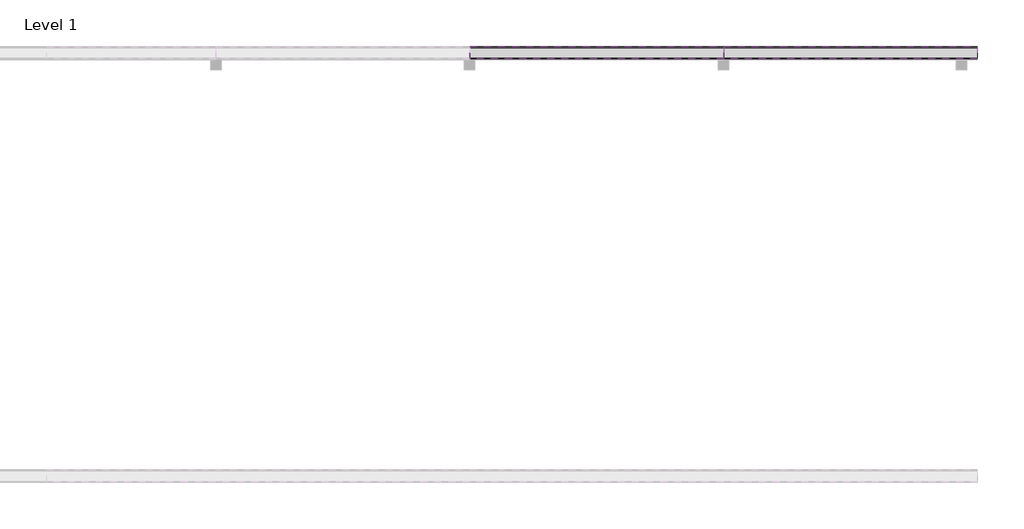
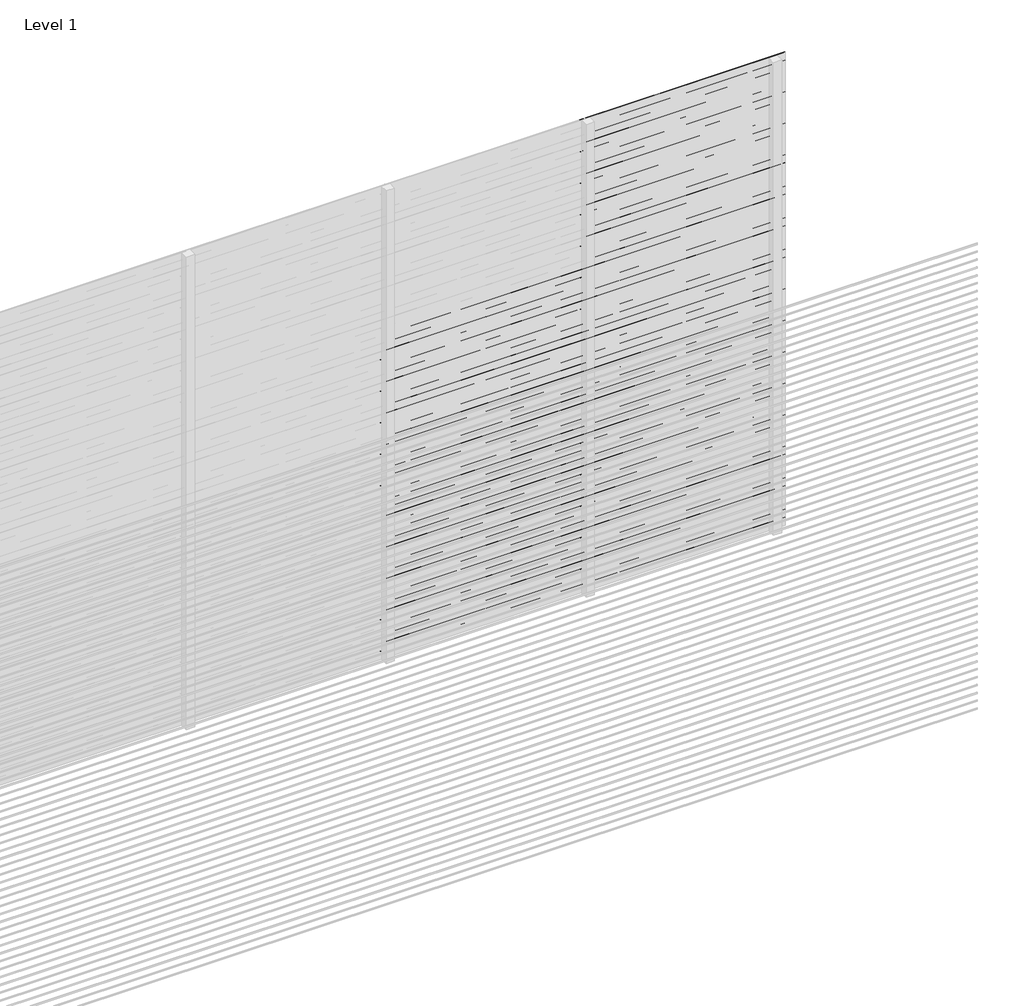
# One storey, part 16 of 16: 101 proxies.
"""IFC4 building model written with IfcOpenShell, lengths in millimetres."""

from ifc_helpers import new_model, si_unit, frame, origin, place, context, project, spatial, polyline, outline, extrude, element, save

model = new_model("IFC4")

# Units and contexts
model_context = context("Model", 3, world=origin())
ifc_project = project(units=[si_unit("LENGTHUNIT", "METRE", prefix="MILLI")], contexts=[model_context])

# Site, building, storey
site = spatial("IfcSite", under=ifc_project)
building = spatial("IfcBuilding", under=site)
storey = spatial("IfcBuildingStorey", under=building, Name="Level 1", Elevation=0.0)

# Proxies
placement = place(None, origin())
element("IfcBuildingElementProxy", 1, Name="Wall Sweeps", at=placement, inside=storey, context=model_context, shape_type="SweptSolid", body=[
    extrude(outline(polyline([(5.0, 2050.0), (5.0, 2048.0), (61.0, 2004.0), (61.0, 1996.0), (3.0, 2041.5714286), (3.0, 2050.0), (5.0, 2050.0)])), frame((3600.0, 0.0, 0.0), z_axis=(1.0, 0.0, 0.0), x_axis=(0.0, 1.0, 0.0)), (0.0, 0.0, 1.0), 1200.0),
])
element("IfcBuildingElementProxy", 2, Name="Wall Sweeps", at=placement, inside=storey, context=model_context, shape_type="SweptSolid", body=[
    extrude(outline(polyline([(5.0, 2000.0), (5.0, 1998.0), (61.0, 1954.0), (61.0, 1946.0), (3.0, 1991.5714286), (3.0, 2000.0), (5.0, 2000.0)])), frame((3600.0, 0.0, 0.0), z_axis=(1.0, 0.0, 0.0), x_axis=(0.0, 1.0, 0.0)), (0.0, 0.0, 1.0), 1200.0),
])
element("IfcBuildingElementProxy", 3, Name="Wall Sweeps", at=placement, inside=storey, context=model_context, shape_type="SweptSolid", body=[
    extrude(outline(polyline([(5.0, 1950.0), (5.0, 1948.0), (61.0, 1904.0), (61.0, 1896.0), (3.0, 1941.5714286), (3.0, 1950.0), (5.0, 1950.0)])), frame((3600.0, 0.0, 0.0), z_axis=(1.0, 0.0, 0.0), x_axis=(0.0, 1.0, 0.0)), (0.0, 0.0, 1.0), 1200.0),
])
element("IfcBuildingElementProxy", 4, Name="Wall Sweeps", at=placement, inside=storey, context=model_context, shape_type="SweptSolid", body=[
    extrude(outline(polyline([(5.0, 1900.0), (5.0, 1898.0), (61.0, 1854.0), (61.0, 1846.0), (3.0, 1891.5714286), (3.0, 1900.0), (5.0, 1900.0)])), frame((3600.0, 0.0, 0.0), z_axis=(1.0, 0.0, 0.0), x_axis=(0.0, 1.0, 0.0)), (0.0, 0.0, 1.0), 1200.0),
])
element("IfcBuildingElementProxy", 5, Name="Wall Sweeps", at=placement, inside=storey, context=model_context, shape_type="SweptSolid", body=[
    extrude(outline(polyline([(5.0, 1850.0), (5.0, 1848.0), (61.0, 1804.0), (61.0, 1796.0), (3.0, 1841.5714286), (3.0, 1850.0), (5.0, 1850.0)])), frame((3600.0, 0.0, 0.0), z_axis=(1.0, 0.0, 0.0), x_axis=(0.0, 1.0, 0.0)), (0.0, 0.0, 1.0), 1200.0),
])
element("IfcBuildingElementProxy", 6, Name="Wall Sweeps", at=placement, inside=storey, context=model_context, shape_type="SweptSolid", body=[
    extrude(outline(polyline([(5.0, 1800.0), (5.0, 1798.0), (61.0, 1754.0), (61.0, 1746.0), (3.0, 1791.5714286), (3.0, 1800.0), (5.0, 1800.0)])), frame((3600.0, 0.0, 0.0), z_axis=(1.0, 0.0, 0.0), x_axis=(0.0, 1.0, 0.0)), (0.0, 0.0, 1.0), 1200.0),
])
element("IfcBuildingElementProxy", 7, Name="Wall Sweeps", at=placement, inside=storey, context=model_context, shape_type="SweptSolid", body=[
    extrude(outline(polyline([(5.0, 1750.0), (5.0, 1748.0), (61.0, 1704.0), (61.0, 1696.0), (3.0, 1741.5714286), (3.0, 1750.0), (5.0, 1750.0)])), frame((3600.0, 0.0, 0.0), z_axis=(1.0, 0.0, 0.0), x_axis=(0.0, 1.0, 0.0)), (0.0, 0.0, 1.0), 1200.0),
])
element("IfcBuildingElementProxy", 8, Name="Wall Sweeps", at=placement, inside=storey, context=model_context, shape_type="SweptSolid", body=[
    extrude(outline(polyline([(5.0, 1700.0), (5.0, 1698.0), (61.0, 1654.0), (61.0, 1646.0), (3.0, 1691.5714286), (3.0, 1700.0), (5.0, 1700.0)])), frame((3600.0, 0.0, 0.0), z_axis=(1.0, 0.0, 0.0), x_axis=(0.0, 1.0, 0.0)), (0.0, 0.0, 1.0), 1200.0),
])
element("IfcBuildingElementProxy", 9, Name="Wall Sweeps", at=placement, inside=storey, context=model_context, shape_type="SweptSolid", body=[
    extrude(outline(polyline([(5.0, 1650.0), (5.0, 1648.0), (61.0, 1604.0), (61.0, 1596.0), (3.0, 1641.5714286), (3.0, 1650.0), (5.0, 1650.0)])), frame((3600.0, 0.0, 0.0), z_axis=(1.0, 0.0, 0.0), x_axis=(0.0, 1.0, 0.0)), (0.0, 0.0, 1.0), 1200.0),
])
element("IfcBuildingElementProxy", 10, Name="Wall Sweeps", at=placement, inside=storey, context=model_context, shape_type="SweptSolid", body=[
    extrude(outline(polyline([(5.0, 1600.0), (5.0, 1598.0), (61.0, 1554.0), (61.0, 1546.0), (3.0, 1591.5714286), (3.0, 1600.0), (5.0, 1600.0)])), frame((3600.0, 0.0, 0.0), z_axis=(1.0, 0.0, 0.0), x_axis=(0.0, 1.0, 0.0)), (0.0, 0.0, 1.0), 1200.0),
])
element("IfcBuildingElementProxy", 11, Name="Wall Sweeps", at=placement, inside=storey, context=model_context, shape_type="SweptSolid", body=[
    extrude(outline(polyline([(5.0, 1550.0), (5.0, 1548.0), (61.0, 1504.0), (61.0, 1496.0), (3.0, 1541.5714286), (3.0, 1550.0), (5.0, 1550.0)])), frame((3600.0, 0.0, 0.0), z_axis=(1.0, 0.0, 0.0), x_axis=(0.0, 1.0, 0.0)), (0.0, 0.0, 1.0), 1200.0),
])
element("IfcBuildingElementProxy", 12, Name="Wall Sweeps", at=placement, inside=storey, context=model_context, shape_type="SweptSolid", body=[
    extrude(outline(polyline([(5.0, 1500.0), (5.0, 1498.0), (61.0, 1454.0), (61.0, 1446.0), (3.0, 1491.5714286), (3.0, 1500.0), (5.0, 1500.0)])), frame((3600.0, 0.0, 0.0), z_axis=(1.0, 0.0, 0.0), x_axis=(0.0, 1.0, 0.0)), (0.0, 0.0, 1.0), 1200.0),
])
element("IfcBuildingElementProxy", 13, Name="Wall Sweeps", at=placement, inside=storey, context=model_context, shape_type="SweptSolid", body=[
    extrude(outline(polyline([(5.0, 1450.0), (5.0, 1448.0), (61.0, 1404.0), (61.0, 1396.0), (3.0, 1441.5714286), (3.0, 1450.0), (5.0, 1450.0)])), frame((3600.0, 0.0, 0.0), z_axis=(1.0, 0.0, 0.0), x_axis=(0.0, 1.0, 0.0)), (0.0, 0.0, 1.0), 1200.0),
])
element("IfcBuildingElementProxy", 14, Name="Wall Sweeps", at=placement, inside=storey, context=model_context, shape_type="SweptSolid", body=[
    extrude(outline(polyline([(5.0, 1400.0), (5.0, 1398.0), (61.0, 1354.0), (61.0, 1346.0), (3.0, 1391.5714286), (3.0, 1400.0), (5.0, 1400.0)])), frame((3600.0, 0.0, 0.0), z_axis=(1.0, 0.0, 0.0), x_axis=(0.0, 1.0, 0.0)), (0.0, 0.0, 1.0), 1200.0),
])
element("IfcBuildingElementProxy", 15, Name="Wall Sweeps", at=placement, inside=storey, context=model_context, shape_type="SweptSolid", body=[
    extrude(outline(polyline([(5.0, 1350.0), (5.0, 1348.0), (61.0, 1304.0), (61.0, 1296.0), (3.0, 1341.5714286), (3.0, 1350.0), (5.0, 1350.0)])), frame((3600.0, 0.0, 0.0), z_axis=(1.0, 0.0, 0.0), x_axis=(0.0, 1.0, 0.0)), (0.0, 0.0, 1.0), 1200.0),
])
element("IfcBuildingElementProxy", 16, Name="Wall Sweeps", at=placement, inside=storey, context=model_context, shape_type="SweptSolid", body=[
    extrude(outline(polyline([(5.0, 1300.0), (5.0, 1298.0), (61.0, 1254.0), (61.0, 1246.0), (3.0, 1291.5714286), (3.0, 1300.0), (5.0, 1300.0)])), frame((3600.0, 0.0, 0.0), z_axis=(1.0, 0.0, 0.0), x_axis=(0.0, 1.0, 0.0)), (0.0, 0.0, 1.0), 1200.0),
])
element("IfcBuildingElementProxy", 17, Name="Wall Sweeps", at=placement, inside=storey, context=model_context, shape_type="SweptSolid", body=[
    extrude(outline(polyline([(5.0, 1250.0), (5.0, 1248.0), (61.0, 1204.0), (61.0, 1196.0), (3.0, 1241.5714286), (3.0, 1250.0), (5.0, 1250.0)])), frame((3600.0, 0.0, 0.0), z_axis=(1.0, 0.0, 0.0), x_axis=(0.0, 1.0, 0.0)), (0.0, 0.0, 1.0), 1200.0),
])
element("IfcBuildingElementProxy", 18, Name="Wall Sweeps", at=placement, inside=storey, context=model_context, shape_type="SweptSolid", body=[
    extrude(outline(polyline([(5.0, 1200.0), (5.0, 1198.0), (61.0, 1154.0), (61.0, 1146.0), (3.0, 1191.5714286), (3.0, 1200.0), (5.0, 1200.0)])), frame((3600.0, 0.0, 0.0), z_axis=(1.0, 0.0, 0.0), x_axis=(0.0, 1.0, 0.0)), (0.0, 0.0, 1.0), 1200.0),
])
element("IfcBuildingElementProxy", 19, Name="Wall Sweeps", at=placement, inside=storey, context=model_context, shape_type="SweptSolid", body=[
    extrude(outline(polyline([(5.0, 1150.0), (5.0, 1148.0), (61.0, 1104.0), (61.0, 1096.0), (3.0, 1141.5714286), (3.0, 1150.0), (5.0, 1150.0)])), frame((3600.0, 0.0, 0.0), z_axis=(1.0, 0.0, 0.0), x_axis=(0.0, 1.0, 0.0)), (0.0, 0.0, 1.0), 1200.0),
])
element("IfcBuildingElementProxy", 20, Name="Wall Sweeps", at=placement, inside=storey, context=model_context, shape_type="SweptSolid", body=[
    extrude(outline(polyline([(5.0, 1100.0), (5.0, 1098.0), (61.0, 1054.0), (61.0, 1046.0), (3.0, 1091.5714286), (3.0, 1100.0), (5.0, 1100.0)])), frame((3600.0, 0.0, 0.0), z_axis=(1.0, 0.0, 0.0), x_axis=(0.0, 1.0, 0.0)), (0.0, 0.0, 1.0), 1200.0),
])
element("IfcBuildingElementProxy", 21, Name="Wall Sweeps", at=placement, inside=storey, context=model_context, shape_type="SweptSolid", body=[
    extrude(outline(polyline([(5.0, 1050.0), (5.0, 1048.0), (61.0, 1004.0), (61.0, 996.0), (3.0, 1041.5714286), (3.0, 1050.0), (5.0, 1050.0)])), frame((3600.0, 0.0, 0.0), z_axis=(1.0, 0.0, 0.0), x_axis=(0.0, 1.0, 0.0)), (0.0, 0.0, 1.0), 1200.0),
])
element("IfcBuildingElementProxy", 22, Name="Wall Sweeps", at=placement, inside=storey, context=model_context, shape_type="SweptSolid", body=[
    extrude(outline(polyline([(5.0, 1000.0), (5.0, 998.0), (61.0, 954.0), (61.0, 946.0), (3.0, 991.5714286), (3.0, 1000.0), (5.0, 1000.0)])), frame((3600.0, 0.0, 0.0), z_axis=(1.0, 0.0, 0.0), x_axis=(0.0, 1.0, 0.0)), (0.0, 0.0, 1.0), 1200.0),
])
element("IfcBuildingElementProxy", 23, Name="Wall Sweeps", at=placement, inside=storey, context=model_context, shape_type="SweptSolid", body=[
    extrude(outline(polyline([(5.0, 950.0), (5.0, 948.0), (61.0, 904.0), (61.0, 896.0), (3.0, 941.5714286), (3.0, 950.0), (5.0, 950.0)])), frame((3600.0, 0.0, 0.0), z_axis=(1.0, 0.0, 0.0), x_axis=(0.0, 1.0, 0.0)), (0.0, 0.0, 1.0), 1200.0),
])
element("IfcBuildingElementProxy", 24, Name="Wall Sweeps", at=placement, inside=storey, context=model_context, shape_type="SweptSolid", body=[
    extrude(outline(polyline([(5.0, 900.0), (5.0, 898.0), (61.0, 854.0), (61.0, 846.0), (3.0, 891.5714286), (3.0, 900.0), (5.0, 900.0)])), frame((3600.0, 0.0, 0.0), z_axis=(1.0, 0.0, 0.0), x_axis=(0.0, 1.0, 0.0)), (0.0, 0.0, 1.0), 1200.0),
])
element("IfcBuildingElementProxy", 25, Name="Wall Sweeps", at=placement, inside=storey, context=model_context, shape_type="SweptSolid", body=[
    extrude(outline(polyline([(5.0, 850.0), (5.0, 848.0), (61.0, 804.0), (61.0, 796.0), (3.0, 841.5714286), (3.0, 850.0), (5.0, 850.0)])), frame((3600.0, 0.0, 0.0), z_axis=(1.0, 0.0, 0.0), x_axis=(0.0, 1.0, 0.0)), (0.0, 0.0, 1.0), 1200.0),
])
element("IfcBuildingElementProxy", 26, Name="Wall Sweeps", at=placement, inside=storey, context=model_context, shape_type="SweptSolid", body=[
    extrude(outline(polyline([(5.0, 800.0), (5.0, 798.0), (61.0, 754.0), (61.0, 746.0), (3.0, 791.5714286), (3.0, 800.0), (5.0, 800.0)])), frame((3600.0, 0.0, 0.0), z_axis=(1.0, 0.0, 0.0), x_axis=(0.0, 1.0, 0.0)), (0.0, 0.0, 1.0), 1200.0),
])
element("IfcBuildingElementProxy", 27, Name="Wall Sweeps", at=placement, inside=storey, context=model_context, shape_type="SweptSolid", body=[
    extrude(outline(polyline([(5.0, 750.0), (5.0, 748.0), (61.0, 704.0), (61.0, 696.0), (3.0, 741.5714286), (3.0, 750.0), (5.0, 750.0)])), frame((3600.0, 0.0, 0.0), z_axis=(1.0, 0.0, 0.0), x_axis=(0.0, 1.0, 0.0)), (0.0, 0.0, 1.0), 1200.0),
])
element("IfcBuildingElementProxy", 28, Name="Wall Sweeps", at=placement, inside=storey, context=model_context, shape_type="SweptSolid", body=[
    extrude(outline(polyline([(5.0, 700.0), (5.0, 698.0), (61.0, 654.0), (61.0, 646.0), (3.0, 691.5714286), (3.0, 700.0), (5.0, 700.0)])), frame((3600.0, 0.0, 0.0), z_axis=(1.0, 0.0, 0.0), x_axis=(0.0, 1.0, 0.0)), (0.0, 0.0, 1.0), 1200.0),
])
element("IfcBuildingElementProxy", 29, Name="Wall Sweeps", at=placement, inside=storey, context=model_context, shape_type="SweptSolid", body=[
    extrude(outline(polyline([(5.0, 650.0), (5.0, 648.0), (61.0, 604.0), (61.0, 596.0), (3.0, 641.5714286), (3.0, 650.0), (5.0, 650.0)])), frame((3600.0, 0.0, 0.0), z_axis=(1.0, 0.0, 0.0), x_axis=(0.0, 1.0, 0.0)), (0.0, 0.0, 1.0), 1200.0),
])
element("IfcBuildingElementProxy", 30, Name="Wall Sweeps", at=placement, inside=storey, context=model_context, shape_type="SweptSolid", body=[
    extrude(outline(polyline([(5.0, 600.0), (5.0, 598.0), (61.0, 554.0), (61.0, 546.0), (3.0, 591.5714286), (3.0, 600.0), (5.0, 600.0)])), frame((3600.0, 0.0, 0.0), z_axis=(1.0, 0.0, 0.0), x_axis=(0.0, 1.0, 0.0)), (0.0, 0.0, 1.0), 1200.0),
])
element("IfcBuildingElementProxy", 31, Name="Wall Sweeps", at=placement, inside=storey, context=model_context, shape_type="SweptSolid", body=[
    extrude(outline(polyline([(5.0, 550.0), (5.0, 548.0), (61.0, 504.0), (61.0, 496.0), (3.0, 541.5714286), (3.0, 550.0), (5.0, 550.0)])), frame((3600.0, 0.0, 0.0), z_axis=(1.0, 0.0, 0.0), x_axis=(0.0, 1.0, 0.0)), (0.0, 0.0, 1.0), 1200.0),
])
element("IfcBuildingElementProxy", 32, Name="Wall Sweeps", at=placement, inside=storey, context=model_context, shape_type="SweptSolid", body=[
    extrude(outline(polyline([(5.0, 500.0), (5.0, 498.0), (61.0, 454.0), (61.0, 446.0), (3.0, 491.5714286), (3.0, 500.0), (5.0, 500.0)])), frame((3600.0, 0.0, 0.0), z_axis=(1.0, 0.0, 0.0), x_axis=(0.0, 1.0, 0.0)), (0.0, 0.0, 1.0), 1200.0),
])
element("IfcBuildingElementProxy", 33, Name="Wall Sweeps", at=placement, inside=storey, context=model_context, shape_type="SweptSolid", body=[
    extrude(outline(polyline([(5.0, 450.0), (5.0, 448.0), (61.0, 404.0), (61.0, 396.0), (3.0, 441.5714286), (3.0, 450.0), (5.0, 450.0)])), frame((3600.0, 0.0, 0.0), z_axis=(1.0, 0.0, 0.0), x_axis=(0.0, 1.0, 0.0)), (0.0, 0.0, 1.0), 1200.0),
])
element("IfcBuildingElementProxy", 34, Name="Wall Sweeps", at=placement, inside=storey, context=model_context, shape_type="SweptSolid", body=[
    extrude(outline(polyline([(5.0, 400.0), (5.0, 398.0), (61.0, 354.0), (61.0, 346.0), (3.0, 391.5714286), (3.0, 400.0), (5.0, 400.0)])), frame((3600.0, 0.0, 0.0), z_axis=(1.0, 0.0, 0.0), x_axis=(0.0, 1.0, 0.0)), (0.0, 0.0, 1.0), 1200.0),
])
element("IfcBuildingElementProxy", 35, Name="Wall Sweeps", at=placement, inside=storey, context=model_context, shape_type="SweptSolid", body=[
    extrude(outline(polyline([(5.0, 350.0), (5.0, 348.0), (61.0, 304.0), (61.0, 296.0), (3.0, 341.5714286), (3.0, 350.0), (5.0, 350.0)])), frame((3600.0, 0.0, 0.0), z_axis=(1.0, 0.0, 0.0), x_axis=(0.0, 1.0, 0.0)), (0.0, 0.0, 1.0), 1200.0),
])
element("IfcBuildingElementProxy", 36, Name="Wall Sweeps", at=placement, inside=storey, context=model_context, shape_type="SweptSolid", body=[
    extrude(outline(polyline([(5.0, 300.0), (5.0, 298.0), (61.0, 254.0), (61.0, 246.0), (3.0, 291.5714286), (3.0, 300.0), (5.0, 300.0)])), frame((3600.0, 0.0, 0.0), z_axis=(1.0, 0.0, 0.0), x_axis=(0.0, 1.0, 0.0)), (0.0, 0.0, 1.0), 1200.0),
])
element("IfcBuildingElementProxy", 37, Name="Wall Sweeps", at=placement, inside=storey, context=model_context, shape_type="SweptSolid", body=[
    extrude(outline(polyline([(5.0, 250.0), (5.0, 248.0), (61.0, 204.0), (61.0, 196.0), (3.0, 241.5714286), (3.0, 250.0), (5.0, 250.0)])), frame((3600.0, 0.0, 0.0), z_axis=(1.0, 0.0, 0.0), x_axis=(0.0, 1.0, 0.0)), (0.0, 0.0, 1.0), 1200.0),
])
element("IfcBuildingElementProxy", 38, Name="Wall Sweeps", at=placement, inside=storey, context=model_context, shape_type="SweptSolid", body=[
    extrude(outline(polyline([(5.0, 200.0), (5.0, 198.0), (61.0, 154.0), (61.0, 146.0), (3.0, 191.5714286), (3.0, 200.0), (5.0, 200.0)])), frame((3600.0, 0.0, 0.0), z_axis=(1.0, 0.0, 0.0), x_axis=(0.0, 1.0, 0.0)), (0.0, 0.0, 1.0), 1200.0),
])
element("IfcBuildingElementProxy", 39, Name="Wall Sweeps", at=placement, inside=storey, context=model_context, shape_type="SweptSolid", body=[
    extrude(outline(polyline([(5.0, 150.0), (5.0, 148.0), (61.0, 104.0), (61.0, 96.0), (3.0, 141.5714286), (3.0, 150.0), (5.0, 150.0)])), frame((3600.0, 0.0, 0.0), z_axis=(1.0, 0.0, 0.0), x_axis=(0.0, 1.0, 0.0)), (0.0, 0.0, 1.0), 1200.0),
])
element("IfcBuildingElementProxy", 40, Name="Wall Sweeps", at=placement, inside=storey, context=model_context, shape_type="SweptSolid", body=[
    extrude(outline(polyline([(5.0, 100.0), (5.0, 98.0), (61.0, 54.0), (61.0, 46.0), (3.0, 91.5714286), (3.0, 100.0), (5.0, 100.0)])), frame((3600.0, 0.0, 0.0), z_axis=(1.0, 0.0, 0.0), x_axis=(0.0, 1.0, 0.0)), (0.0, 0.0, 1.0), 1200.0),
])
element("IfcBuildingElementProxy", 41, Name="Wall Sweeps", at=placement, inside=storey, context=model_context, shape_type="SweptSolid", body=[
    extrude(outline(polyline([(5.0, 50.0), (5.0, 48.0), (61.0, 4.0), (61.0, -4.0), (3.0, 41.5714286), (3.0, 50.0), (5.0, 50.0)])), frame((3600.0, 0.0, 0.0), z_axis=(1.0, 0.0, 0.0), x_axis=(0.0, 1.0, 0.0)), (0.0, 0.0, 1.0), 1200.0),
])
element("IfcBuildingElementProxy", 42, Name="Wall Sweeps", at=placement, inside=storey, context=model_context, shape_type="SweptSolid", body=[
    extrude(outline(polyline([(5.0, 3000.0), (5.0, 2998.0), (61.0, 2954.0), (61.0, 2946.0), (3.0, 2991.5714286), (3.0, 3000.0), (5.0, 3000.0)])), frame((4800.0, 0.0, 0.0), z_axis=(1.0, 0.0, 0.0), x_axis=(0.0, 1.0, 0.0)), (0.0, 0.0, 1.0), 1200.0),
])
element("IfcBuildingElementProxy", 43, Name="Wall Sweeps", at=placement, inside=storey, context=model_context, shape_type="SweptSolid", body=[
    extrude(outline(polyline([(5.0, 2950.0), (5.0, 2948.0), (61.0, 2904.0), (61.0, 2896.0), (3.0, 2941.5714286), (3.0, 2950.0), (5.0, 2950.0)])), frame((4800.0, 0.0, 0.0), z_axis=(1.0, 0.0, 0.0), x_axis=(0.0, 1.0, 0.0)), (0.0, 0.0, 1.0), 1200.0),
])
element("IfcBuildingElementProxy", 44, Name="Wall Sweeps", at=placement, inside=storey, context=model_context, shape_type="SweptSolid", body=[
    extrude(outline(polyline([(5.0, 2900.0), (5.0, 2898.0), (61.0, 2854.0), (61.0, 2846.0), (3.0, 2891.5714286), (3.0, 2900.0), (5.0, 2900.0)])), frame((4800.0, 0.0, 0.0), z_axis=(1.0, 0.0, 0.0), x_axis=(0.0, 1.0, 0.0)), (0.0, 0.0, 1.0), 1200.0),
])
element("IfcBuildingElementProxy", 45, Name="Wall Sweeps", at=placement, inside=storey, context=model_context, shape_type="SweptSolid", body=[
    extrude(outline(polyline([(5.0, 2850.0), (5.0, 2848.0), (61.0, 2804.0), (61.0, 2796.0), (3.0, 2841.5714286), (3.0, 2850.0), (5.0, 2850.0)])), frame((4800.0, 0.0, 0.0), z_axis=(1.0, 0.0, 0.0), x_axis=(0.0, 1.0, 0.0)), (0.0, 0.0, 1.0), 1200.0),
])
element("IfcBuildingElementProxy", 46, Name="Wall Sweeps", at=placement, inside=storey, context=model_context, shape_type="SweptSolid", body=[
    extrude(outline(polyline([(5.0, 2800.0), (5.0, 2798.0), (61.0, 2754.0), (61.0, 2746.0), (3.0, 2791.5714286), (3.0, 2800.0), (5.0, 2800.0)])), frame((4800.0, 0.0, 0.0), z_axis=(1.0, 0.0, 0.0), x_axis=(0.0, 1.0, 0.0)), (0.0, 0.0, 1.0), 1200.0),
])
element("IfcBuildingElementProxy", 47, Name="Wall Sweeps", at=placement, inside=storey, context=model_context, shape_type="SweptSolid", body=[
    extrude(outline(polyline([(5.0, 2750.0), (5.0, 2748.0), (61.0, 2704.0), (61.0, 2696.0), (3.0, 2741.5714286), (3.0, 2750.0), (5.0, 2750.0)])), frame((4800.0, 0.0, 0.0), z_axis=(1.0, 0.0, 0.0), x_axis=(0.0, 1.0, 0.0)), (0.0, 0.0, 1.0), 1200.0),
])
element("IfcBuildingElementProxy", 48, Name="Wall Sweeps", at=placement, inside=storey, context=model_context, shape_type="SweptSolid", body=[
    extrude(outline(polyline([(5.0, 2700.0), (5.0, 2698.0), (61.0, 2654.0), (61.0, 2646.0), (3.0, 2691.5714286), (3.0, 2700.0), (5.0, 2700.0)])), frame((4800.0, 0.0, 0.0), z_axis=(1.0, 0.0, 0.0), x_axis=(0.0, 1.0, 0.0)), (0.0, 0.0, 1.0), 1200.0),
])
element("IfcBuildingElementProxy", 49, Name="Wall Sweeps", at=placement, inside=storey, context=model_context, shape_type="SweptSolid", body=[
    extrude(outline(polyline([(5.0, 2650.0), (5.0, 2648.0), (61.0, 2604.0), (61.0, 2596.0), (3.0, 2641.5714286), (3.0, 2650.0), (5.0, 2650.0)])), frame((4800.0, 0.0, 0.0), z_axis=(1.0, 0.0, 0.0), x_axis=(0.0, 1.0, 0.0)), (0.0, 0.0, 1.0), 1200.0),
])
element("IfcBuildingElementProxy", 50, Name="Wall Sweeps", at=placement, inside=storey, context=model_context, shape_type="SweptSolid", body=[
    extrude(outline(polyline([(5.0, 2600.0), (5.0, 2598.0), (61.0, 2554.0), (61.0, 2546.0), (3.0, 2591.5714286), (3.0, 2600.0), (5.0, 2600.0)])), frame((4800.0, 0.0, 0.0), z_axis=(1.0, 0.0, 0.0), x_axis=(0.0, 1.0, 0.0)), (0.0, 0.0, 1.0), 1200.0),
])
element("IfcBuildingElementProxy", 51, Name="Wall Sweeps", at=placement, inside=storey, context=model_context, shape_type="SweptSolid", body=[
    extrude(outline(polyline([(5.0, 2550.0), (5.0, 2548.0), (61.0, 2504.0), (61.0, 2496.0), (3.0, 2541.5714286), (3.0, 2550.0), (5.0, 2550.0)])), frame((4800.0, 0.0, 0.0), z_axis=(1.0, 0.0, 0.0), x_axis=(0.0, 1.0, 0.0)), (0.0, 0.0, 1.0), 1200.0),
])
element("IfcBuildingElementProxy", 52, Name="Wall Sweeps", at=placement, inside=storey, context=model_context, shape_type="SweptSolid", body=[
    extrude(outline(polyline([(5.0, 2500.0), (5.0, 2498.0), (61.0, 2454.0), (61.0, 2446.0), (3.0, 2491.5714286), (3.0, 2500.0), (5.0, 2500.0)])), frame((4800.0, 0.0, 0.0), z_axis=(1.0, 0.0, 0.0), x_axis=(0.0, 1.0, 0.0)), (0.0, 0.0, 1.0), 1200.0),
])
element("IfcBuildingElementProxy", 53, Name="Wall Sweeps", at=placement, inside=storey, context=model_context, shape_type="SweptSolid", body=[
    extrude(outline(polyline([(5.0, 2450.0), (5.0, 2448.0), (61.0, 2404.0), (61.0, 2396.0), (3.0, 2441.5714286), (3.0, 2450.0), (5.0, 2450.0)])), frame((4800.0, 0.0, 0.0), z_axis=(1.0, 0.0, 0.0), x_axis=(0.0, 1.0, 0.0)), (0.0, 0.0, 1.0), 1200.0),
])
element("IfcBuildingElementProxy", 54, Name="Wall Sweeps", at=placement, inside=storey, context=model_context, shape_type="SweptSolid", body=[
    extrude(outline(polyline([(5.0, 2400.0), (5.0, 2398.0), (61.0, 2354.0), (61.0, 2346.0), (3.0, 2391.5714286), (3.0, 2400.0), (5.0, 2400.0)])), frame((4800.0, 0.0, 0.0), z_axis=(1.0, 0.0, 0.0), x_axis=(0.0, 1.0, 0.0)), (0.0, 0.0, 1.0), 1200.0),
])
element("IfcBuildingElementProxy", 55, Name="Wall Sweeps", at=placement, inside=storey, context=model_context, shape_type="SweptSolid", body=[
    extrude(outline(polyline([(5.0, 2350.0), (5.0, 2348.0), (61.0, 2304.0), (61.0, 2296.0), (3.0, 2341.5714286), (3.0, 2350.0), (5.0, 2350.0)])), frame((4800.0, 0.0, 0.0), z_axis=(1.0, 0.0, 0.0), x_axis=(0.0, 1.0, 0.0)), (0.0, 0.0, 1.0), 1200.0),
])
element("IfcBuildingElementProxy", 56, Name="Wall Sweeps", at=placement, inside=storey, context=model_context, shape_type="SweptSolid", body=[
    extrude(outline(polyline([(5.0, 2300.0), (5.0, 2298.0), (61.0, 2254.0), (61.0, 2246.0), (3.0, 2291.5714286), (3.0, 2300.0), (5.0, 2300.0)])), frame((4800.0, 0.0, 0.0), z_axis=(1.0, 0.0, 0.0), x_axis=(0.0, 1.0, 0.0)), (0.0, 0.0, 1.0), 1200.0),
])
element("IfcBuildingElementProxy", 57, Name="Wall Sweeps", at=placement, inside=storey, context=model_context, shape_type="SweptSolid", body=[
    extrude(outline(polyline([(5.0, 2250.0), (5.0, 2248.0), (61.0, 2204.0), (61.0, 2196.0), (3.0, 2241.5714286), (3.0, 2250.0), (5.0, 2250.0)])), frame((4800.0, 0.0, 0.0), z_axis=(1.0, 0.0, 0.0), x_axis=(0.0, 1.0, 0.0)), (0.0, 0.0, 1.0), 1200.0),
])
element("IfcBuildingElementProxy", 58, Name="Wall Sweeps", at=placement, inside=storey, context=model_context, shape_type="SweptSolid", body=[
    extrude(outline(polyline([(5.0, 2200.0), (5.0, 2198.0), (61.0, 2154.0), (61.0, 2146.0), (3.0, 2191.5714286), (3.0, 2200.0), (5.0, 2200.0)])), frame((4800.0, 0.0, 0.0), z_axis=(1.0, 0.0, 0.0), x_axis=(0.0, 1.0, 0.0)), (0.0, 0.0, 1.0), 1200.0),
])
element("IfcBuildingElementProxy", 59, Name="Wall Sweeps", at=placement, inside=storey, context=model_context, shape_type="SweptSolid", body=[
    extrude(outline(polyline([(5.0, 2150.0), (5.0, 2148.0), (61.0, 2104.0), (61.0, 2096.0), (3.0, 2141.5714286), (3.0, 2150.0), (5.0, 2150.0)])), frame((4800.0, 0.0, 0.0), z_axis=(1.0, 0.0, 0.0), x_axis=(0.0, 1.0, 0.0)), (0.0, 0.0, 1.0), 1200.0),
])
element("IfcBuildingElementProxy", 60, Name="Wall Sweeps", at=placement, inside=storey, context=model_context, shape_type="SweptSolid", body=[
    extrude(outline(polyline([(5.0, 2100.0), (5.0, 2098.0), (61.0, 2054.0), (61.0, 2046.0), (3.0, 2091.5714286), (3.0, 2100.0), (5.0, 2100.0)])), frame((4800.0, 0.0, 0.0), z_axis=(1.0, 0.0, 0.0), x_axis=(0.0, 1.0, 0.0)), (0.0, 0.0, 1.0), 1200.0),
])
element("IfcBuildingElementProxy", 61, Name="Wall Sweeps", at=placement, inside=storey, context=model_context, shape_type="SweptSolid", body=[
    extrude(outline(polyline([(5.0, 2050.0), (5.0, 2048.0), (61.0, 2004.0), (61.0, 1996.0), (3.0, 2041.5714286), (3.0, 2050.0), (5.0, 2050.0)])), frame((4800.0, 0.0, 0.0), z_axis=(1.0, 0.0, 0.0), x_axis=(0.0, 1.0, 0.0)), (0.0, 0.0, 1.0), 1200.0),
])
element("IfcBuildingElementProxy", 62, Name="Wall Sweeps", at=placement, inside=storey, context=model_context, shape_type="SweptSolid", body=[
    extrude(outline(polyline([(5.0, 2000.0), (5.0, 1998.0), (61.0, 1954.0), (61.0, 1946.0), (3.0, 1991.5714286), (3.0, 2000.0), (5.0, 2000.0)])), frame((4800.0, 0.0, 0.0), z_axis=(1.0, 0.0, 0.0), x_axis=(0.0, 1.0, 0.0)), (0.0, 0.0, 1.0), 1200.0),
])
element("IfcBuildingElementProxy", 63, Name="Wall Sweeps", at=placement, inside=storey, context=model_context, shape_type="SweptSolid", body=[
    extrude(outline(polyline([(5.0, 1950.0), (5.0, 1948.0), (61.0, 1904.0), (61.0, 1896.0), (3.0, 1941.5714286), (3.0, 1950.0), (5.0, 1950.0)])), frame((4800.0, 0.0, 0.0), z_axis=(1.0, 0.0, 0.0), x_axis=(0.0, 1.0, 0.0)), (0.0, 0.0, 1.0), 1200.0),
])
element("IfcBuildingElementProxy", 64, Name="Wall Sweeps", at=placement, inside=storey, context=model_context, shape_type="SweptSolid", body=[
    extrude(outline(polyline([(5.0, 1900.0), (5.0, 1898.0), (61.0, 1854.0), (61.0, 1846.0), (3.0, 1891.5714286), (3.0, 1900.0), (5.0, 1900.0)])), frame((4800.0, 0.0, 0.0), z_axis=(1.0, 0.0, 0.0), x_axis=(0.0, 1.0, 0.0)), (0.0, 0.0, 1.0), 1200.0),
])
element("IfcBuildingElementProxy", 65, Name="Wall Sweeps", at=placement, inside=storey, context=model_context, shape_type="SweptSolid", body=[
    extrude(outline(polyline([(5.0, 1850.0), (5.0, 1848.0), (61.0, 1804.0), (61.0, 1796.0), (3.0, 1841.5714286), (3.0, 1850.0), (5.0, 1850.0)])), frame((4800.0, 0.0, 0.0), z_axis=(1.0, 0.0, 0.0), x_axis=(0.0, 1.0, 0.0)), (0.0, 0.0, 1.0), 1200.0),
])
element("IfcBuildingElementProxy", 66, Name="Wall Sweeps", at=placement, inside=storey, context=model_context, shape_type="SweptSolid", body=[
    extrude(outline(polyline([(5.0, 1800.0), (5.0, 1798.0), (61.0, 1754.0), (61.0, 1746.0), (3.0, 1791.5714286), (3.0, 1800.0), (5.0, 1800.0)])), frame((4800.0, 0.0, 0.0), z_axis=(1.0, 0.0, 0.0), x_axis=(0.0, 1.0, 0.0)), (0.0, 0.0, 1.0), 1200.0),
])
element("IfcBuildingElementProxy", 67, Name="Wall Sweeps", at=placement, inside=storey, context=model_context, shape_type="SweptSolid", body=[
    extrude(outline(polyline([(5.0, 1750.0), (5.0, 1748.0), (61.0, 1704.0), (61.0, 1696.0), (3.0, 1741.5714286), (3.0, 1750.0), (5.0, 1750.0)])), frame((4800.0, 0.0, 0.0), z_axis=(1.0, 0.0, 0.0), x_axis=(0.0, 1.0, 0.0)), (0.0, 0.0, 1.0), 1200.0),
])
element("IfcBuildingElementProxy", 68, Name="Wall Sweeps", at=placement, inside=storey, context=model_context, shape_type="SweptSolid", body=[
    extrude(outline(polyline([(5.0, 1700.0), (5.0, 1698.0), (61.0, 1654.0), (61.0, 1646.0), (3.0, 1691.5714286), (3.0, 1700.0), (5.0, 1700.0)])), frame((4800.0, 0.0, 0.0), z_axis=(1.0, 0.0, 0.0), x_axis=(0.0, 1.0, 0.0)), (0.0, 0.0, 1.0), 1200.0),
])
element("IfcBuildingElementProxy", 69, Name="Wall Sweeps", at=placement, inside=storey, context=model_context, shape_type="SweptSolid", body=[
    extrude(outline(polyline([(5.0, 1650.0), (5.0, 1648.0), (61.0, 1604.0), (61.0, 1596.0), (3.0, 1641.5714286), (3.0, 1650.0), (5.0, 1650.0)])), frame((4800.0, 0.0, 0.0), z_axis=(1.0, 0.0, 0.0), x_axis=(0.0, 1.0, 0.0)), (0.0, 0.0, 1.0), 1200.0),
])
element("IfcBuildingElementProxy", 70, Name="Wall Sweeps", at=placement, inside=storey, context=model_context, shape_type="SweptSolid", body=[
    extrude(outline(polyline([(5.0, 1600.0), (5.0, 1598.0), (61.0, 1554.0), (61.0, 1546.0), (3.0, 1591.5714286), (3.0, 1600.0), (5.0, 1600.0)])), frame((4800.0, 0.0, 0.0), z_axis=(1.0, 0.0, 0.0), x_axis=(0.0, 1.0, 0.0)), (0.0, 0.0, 1.0), 1200.0),
])
element("IfcBuildingElementProxy", 71, Name="Wall Sweeps", at=placement, inside=storey, context=model_context, shape_type="SweptSolid", body=[
    extrude(outline(polyline([(5.0, 1550.0), (5.0, 1548.0), (61.0, 1504.0), (61.0, 1496.0), (3.0, 1541.5714286), (3.0, 1550.0), (5.0, 1550.0)])), frame((4800.0, 0.0, 0.0), z_axis=(1.0, 0.0, 0.0), x_axis=(0.0, 1.0, 0.0)), (0.0, 0.0, 1.0), 1200.0),
])
element("IfcBuildingElementProxy", 72, Name="Wall Sweeps", at=placement, inside=storey, context=model_context, shape_type="SweptSolid", body=[
    extrude(outline(polyline([(5.0, 1500.0), (5.0, 1498.0), (61.0, 1454.0), (61.0, 1446.0), (3.0, 1491.5714286), (3.0, 1500.0), (5.0, 1500.0)])), frame((4800.0, 0.0, 0.0), z_axis=(1.0, 0.0, 0.0), x_axis=(0.0, 1.0, 0.0)), (0.0, 0.0, 1.0), 1200.0),
])
element("IfcBuildingElementProxy", 73, Name="Wall Sweeps", at=placement, inside=storey, context=model_context, shape_type="SweptSolid", body=[
    extrude(outline(polyline([(5.0, 1450.0), (5.0, 1448.0), (61.0, 1404.0), (61.0, 1396.0), (3.0, 1441.5714286), (3.0, 1450.0), (5.0, 1450.0)])), frame((4800.0, 0.0, 0.0), z_axis=(1.0, 0.0, 0.0), x_axis=(0.0, 1.0, 0.0)), (0.0, 0.0, 1.0), 1200.0),
])
element("IfcBuildingElementProxy", 74, Name="Wall Sweeps", at=placement, inside=storey, context=model_context, shape_type="SweptSolid", body=[
    extrude(outline(polyline([(5.0, 1400.0), (5.0, 1398.0), (61.0, 1354.0), (61.0, 1346.0), (3.0, 1391.5714286), (3.0, 1400.0), (5.0, 1400.0)])), frame((4800.0, 0.0, 0.0), z_axis=(1.0, 0.0, 0.0), x_axis=(0.0, 1.0, 0.0)), (0.0, 0.0, 1.0), 1200.0),
])
element("IfcBuildingElementProxy", 75, Name="Wall Sweeps", at=placement, inside=storey, context=model_context, shape_type="SweptSolid", body=[
    extrude(outline(polyline([(5.0, 1350.0), (5.0, 1348.0), (61.0, 1304.0), (61.0, 1296.0), (3.0, 1341.5714286), (3.0, 1350.0), (5.0, 1350.0)])), frame((4800.0, 0.0, 0.0), z_axis=(1.0, 0.0, 0.0), x_axis=(0.0, 1.0, 0.0)), (0.0, 0.0, 1.0), 1200.0),
])
element("IfcBuildingElementProxy", 76, Name="Wall Sweeps", at=placement, inside=storey, context=model_context, shape_type="SweptSolid", body=[
    extrude(outline(polyline([(5.0, 1300.0), (5.0, 1298.0), (61.0, 1254.0), (61.0, 1246.0), (3.0, 1291.5714286), (3.0, 1300.0), (5.0, 1300.0)])), frame((4800.0, 0.0, 0.0), z_axis=(1.0, 0.0, 0.0), x_axis=(0.0, 1.0, 0.0)), (0.0, 0.0, 1.0), 1200.0),
])
element("IfcBuildingElementProxy", 77, Name="Wall Sweeps", at=placement, inside=storey, context=model_context, shape_type="SweptSolid", body=[
    extrude(outline(polyline([(5.0, 1250.0), (5.0, 1248.0), (61.0, 1204.0), (61.0, 1196.0), (3.0, 1241.5714286), (3.0, 1250.0), (5.0, 1250.0)])), frame((4800.0, 0.0, 0.0), z_axis=(1.0, 0.0, 0.0), x_axis=(0.0, 1.0, 0.0)), (0.0, 0.0, 1.0), 1200.0),
])
element("IfcBuildingElementProxy", 78, Name="Wall Sweeps", at=placement, inside=storey, context=model_context, shape_type="SweptSolid", body=[
    extrude(outline(polyline([(5.0, 1200.0), (5.0, 1198.0), (61.0, 1154.0), (61.0, 1146.0), (3.0, 1191.5714286), (3.0, 1200.0), (5.0, 1200.0)])), frame((4800.0, 0.0, 0.0), z_axis=(1.0, 0.0, 0.0), x_axis=(0.0, 1.0, 0.0)), (0.0, 0.0, 1.0), 1200.0),
])
element("IfcBuildingElementProxy", 79, Name="Wall Sweeps", at=placement, inside=storey, context=model_context, shape_type="SweptSolid", body=[
    extrude(outline(polyline([(5.0, 1150.0), (5.0, 1148.0), (61.0, 1104.0), (61.0, 1096.0), (3.0, 1141.5714286), (3.0, 1150.0), (5.0, 1150.0)])), frame((4800.0, 0.0, 0.0), z_axis=(1.0, 0.0, 0.0), x_axis=(0.0, 1.0, 0.0)), (0.0, 0.0, 1.0), 1200.0),
])
element("IfcBuildingElementProxy", 80, Name="Wall Sweeps", at=placement, inside=storey, context=model_context, shape_type="SweptSolid", body=[
    extrude(outline(polyline([(5.0, 1100.0), (5.0, 1098.0), (61.0, 1054.0), (61.0, 1046.0), (3.0, 1091.5714286), (3.0, 1100.0), (5.0, 1100.0)])), frame((4800.0, 0.0, 0.0), z_axis=(1.0, 0.0, 0.0), x_axis=(0.0, 1.0, 0.0)), (0.0, 0.0, 1.0), 1200.0),
])
element("IfcBuildingElementProxy", 81, Name="Wall Sweeps", at=placement, inside=storey, context=model_context, shape_type="SweptSolid", body=[
    extrude(outline(polyline([(5.0, 1050.0), (5.0, 1048.0), (61.0, 1004.0), (61.0, 996.0), (3.0, 1041.5714286), (3.0, 1050.0), (5.0, 1050.0)])), frame((4800.0, 0.0, 0.0), z_axis=(1.0, 0.0, 0.0), x_axis=(0.0, 1.0, 0.0)), (0.0, 0.0, 1.0), 1200.0),
])
element("IfcBuildingElementProxy", 82, Name="Wall Sweeps", at=placement, inside=storey, context=model_context, shape_type="SweptSolid", body=[
    extrude(outline(polyline([(5.0, 1000.0), (5.0, 998.0), (61.0, 954.0), (61.0, 946.0), (3.0, 991.5714286), (3.0, 1000.0), (5.0, 1000.0)])), frame((4800.0, 0.0, 0.0), z_axis=(1.0, 0.0, 0.0), x_axis=(0.0, 1.0, 0.0)), (0.0, 0.0, 1.0), 1200.0),
])
element("IfcBuildingElementProxy", 83, Name="Wall Sweeps", at=placement, inside=storey, context=model_context, shape_type="SweptSolid", body=[
    extrude(outline(polyline([(5.0, 950.0), (5.0, 948.0), (61.0, 904.0), (61.0, 896.0), (3.0, 941.5714286), (3.0, 950.0), (5.0, 950.0)])), frame((4800.0, 0.0, 0.0), z_axis=(1.0, 0.0, 0.0), x_axis=(0.0, 1.0, 0.0)), (0.0, 0.0, 1.0), 1200.0),
])
element("IfcBuildingElementProxy", 84, Name="Wall Sweeps", at=placement, inside=storey, context=model_context, shape_type="SweptSolid", body=[
    extrude(outline(polyline([(5.0, 900.0), (5.0, 898.0), (61.0, 854.0), (61.0, 846.0), (3.0, 891.5714286), (3.0, 900.0), (5.0, 900.0)])), frame((4800.0, 0.0, 0.0), z_axis=(1.0, 0.0, 0.0), x_axis=(0.0, 1.0, 0.0)), (0.0, 0.0, 1.0), 1200.0),
])
element("IfcBuildingElementProxy", 85, Name="Wall Sweeps", at=placement, inside=storey, context=model_context, shape_type="SweptSolid", body=[
    extrude(outline(polyline([(5.0, 850.0), (5.0, 848.0), (61.0, 804.0), (61.0, 796.0), (3.0, 841.5714286), (3.0, 850.0), (5.0, 850.0)])), frame((4800.0, 0.0, 0.0), z_axis=(1.0, 0.0, 0.0), x_axis=(0.0, 1.0, 0.0)), (0.0, 0.0, 1.0), 1200.0),
])
element("IfcBuildingElementProxy", 86, Name="Wall Sweeps", at=placement, inside=storey, context=model_context, shape_type="SweptSolid", body=[
    extrude(outline(polyline([(5.0, 800.0), (5.0, 798.0), (61.0, 754.0), (61.0, 746.0), (3.0, 791.5714286), (3.0, 800.0), (5.0, 800.0)])), frame((4800.0, 0.0, 0.0), z_axis=(1.0, 0.0, 0.0), x_axis=(0.0, 1.0, 0.0)), (0.0, 0.0, 1.0), 1200.0),
])
element("IfcBuildingElementProxy", 87, Name="Wall Sweeps", at=placement, inside=storey, context=model_context, shape_type="SweptSolid", body=[
    extrude(outline(polyline([(5.0, 750.0), (5.0, 748.0), (61.0, 704.0), (61.0, 696.0), (3.0, 741.5714286), (3.0, 750.0), (5.0, 750.0)])), frame((4800.0, 0.0, 0.0), z_axis=(1.0, 0.0, 0.0), x_axis=(0.0, 1.0, 0.0)), (0.0, 0.0, 1.0), 1200.0),
])
element("IfcBuildingElementProxy", 88, Name="Wall Sweeps", at=placement, inside=storey, context=model_context, shape_type="SweptSolid", body=[
    extrude(outline(polyline([(5.0, 700.0), (5.0, 698.0), (61.0, 654.0), (61.0, 646.0), (3.0, 691.5714286), (3.0, 700.0), (5.0, 700.0)])), frame((4800.0, 0.0, 0.0), z_axis=(1.0, 0.0, 0.0), x_axis=(0.0, 1.0, 0.0)), (0.0, 0.0, 1.0), 1200.0),
])
element("IfcBuildingElementProxy", 89, Name="Wall Sweeps", at=placement, inside=storey, context=model_context, shape_type="SweptSolid", body=[
    extrude(outline(polyline([(5.0, 650.0), (5.0, 648.0), (61.0, 604.0), (61.0, 596.0), (3.0, 641.5714286), (3.0, 650.0), (5.0, 650.0)])), frame((4800.0, 0.0, 0.0), z_axis=(1.0, 0.0, 0.0), x_axis=(0.0, 1.0, 0.0)), (0.0, 0.0, 1.0), 1200.0),
])
element("IfcBuildingElementProxy", 90, Name="Wall Sweeps", at=placement, inside=storey, context=model_context, shape_type="SweptSolid", body=[
    extrude(outline(polyline([(5.0, 600.0), (5.0, 598.0), (61.0, 554.0), (61.0, 546.0), (3.0, 591.5714286), (3.0, 600.0), (5.0, 600.0)])), frame((4800.0, 0.0, 0.0), z_axis=(1.0, 0.0, 0.0), x_axis=(0.0, 1.0, 0.0)), (0.0, 0.0, 1.0), 1200.0),
])
element("IfcBuildingElementProxy", 91, Name="Wall Sweeps", at=placement, inside=storey, context=model_context, shape_type="SweptSolid", body=[
    extrude(outline(polyline([(5.0, 550.0), (5.0, 548.0), (61.0, 504.0), (61.0, 496.0), (3.0, 541.5714286), (3.0, 550.0), (5.0, 550.0)])), frame((4800.0, 0.0, 0.0), z_axis=(1.0, 0.0, 0.0), x_axis=(0.0, 1.0, 0.0)), (0.0, 0.0, 1.0), 1200.0),
])
element("IfcBuildingElementProxy", 92, Name="Wall Sweeps", at=placement, inside=storey, context=model_context, shape_type="SweptSolid", body=[
    extrude(outline(polyline([(5.0, 500.0), (5.0, 498.0), (61.0, 454.0), (61.0, 446.0), (3.0, 491.5714286), (3.0, 500.0), (5.0, 500.0)])), frame((4800.0, 0.0, 0.0), z_axis=(1.0, 0.0, 0.0), x_axis=(0.0, 1.0, 0.0)), (0.0, 0.0, 1.0), 1200.0),
])
element("IfcBuildingElementProxy", 93, Name="Wall Sweeps", at=placement, inside=storey, context=model_context, shape_type="SweptSolid", body=[
    extrude(outline(polyline([(5.0, 450.0), (5.0, 448.0), (61.0, 404.0), (61.0, 396.0), (3.0, 441.5714286), (3.0, 450.0), (5.0, 450.0)])), frame((4800.0, 0.0, 0.0), z_axis=(1.0, 0.0, 0.0), x_axis=(0.0, 1.0, 0.0)), (0.0, 0.0, 1.0), 1200.0),
])
element("IfcBuildingElementProxy", 94, Name="Wall Sweeps", at=placement, inside=storey, context=model_context, shape_type="SweptSolid", body=[
    extrude(outline(polyline([(5.0, 400.0), (5.0, 398.0), (61.0, 354.0), (61.0, 346.0), (3.0, 391.5714286), (3.0, 400.0), (5.0, 400.0)])), frame((4800.0, 0.0, 0.0), z_axis=(1.0, 0.0, 0.0), x_axis=(0.0, 1.0, 0.0)), (0.0, 0.0, 1.0), 1200.0),
])
element("IfcBuildingElementProxy", 95, Name="Wall Sweeps", at=placement, inside=storey, context=model_context, shape_type="SweptSolid", body=[
    extrude(outline(polyline([(5.0, 350.0), (5.0, 348.0), (61.0, 304.0), (61.0, 296.0), (3.0, 341.5714286), (3.0, 350.0), (5.0, 350.0)])), frame((4800.0, 0.0, 0.0), z_axis=(1.0, 0.0, 0.0), x_axis=(0.0, 1.0, 0.0)), (0.0, 0.0, 1.0), 1200.0),
])
element("IfcBuildingElementProxy", 96, Name="Wall Sweeps", at=placement, inside=storey, context=model_context, shape_type="SweptSolid", body=[
    extrude(outline(polyline([(5.0, 300.0), (5.0, 298.0), (61.0, 254.0), (61.0, 246.0), (3.0, 291.5714286), (3.0, 300.0), (5.0, 300.0)])), frame((4800.0, 0.0, 0.0), z_axis=(1.0, 0.0, 0.0), x_axis=(0.0, 1.0, 0.0)), (0.0, 0.0, 1.0), 1200.0),
])
element("IfcBuildingElementProxy", 97, Name="Wall Sweeps", at=placement, inside=storey, context=model_context, shape_type="SweptSolid", body=[
    extrude(outline(polyline([(5.0, 250.0), (5.0, 248.0), (61.0, 204.0), (61.0, 196.0), (3.0, 241.5714286), (3.0, 250.0), (5.0, 250.0)])), frame((4800.0, 0.0, 0.0), z_axis=(1.0, 0.0, 0.0), x_axis=(0.0, 1.0, 0.0)), (0.0, 0.0, 1.0), 1200.0),
])
element("IfcBuildingElementProxy", 98, Name="Wall Sweeps", at=placement, inside=storey, context=model_context, shape_type="SweptSolid", body=[
    extrude(outline(polyline([(5.0, 200.0), (5.0, 198.0), (61.0, 154.0), (61.0, 146.0), (3.0, 191.5714286), (3.0, 200.0), (5.0, 200.0)])), frame((4800.0, 0.0, 0.0), z_axis=(1.0, 0.0, 0.0), x_axis=(0.0, 1.0, 0.0)), (0.0, 0.0, 1.0), 1200.0),
])
element("IfcBuildingElementProxy", 99, Name="Wall Sweeps", at=placement, inside=storey, context=model_context, shape_type="SweptSolid", body=[
    extrude(outline(polyline([(5.0, 150.0), (5.0, 148.0), (61.0, 104.0), (61.0, 96.0), (3.0, 141.5714286), (3.0, 150.0), (5.0, 150.0)])), frame((4800.0, 0.0, 0.0), z_axis=(1.0, 0.0, 0.0), x_axis=(0.0, 1.0, 0.0)), (0.0, 0.0, 1.0), 1200.0),
])
element("IfcBuildingElementProxy", 100, Name="Wall Sweeps", at=placement, inside=storey, context=model_context, shape_type="SweptSolid", body=[
    extrude(outline(polyline([(5.0, 100.0), (5.0, 98.0), (61.0, 54.0), (61.0, 46.0), (3.0, 91.5714286), (3.0, 100.0), (5.0, 100.0)])), frame((4800.0, 0.0, 0.0), z_axis=(1.0, 0.0, 0.0), x_axis=(0.0, 1.0, 0.0)), (0.0, 0.0, 1.0), 1200.0),
])
element("IfcBuildingElementProxy", 101, Name="Wall Sweeps", at=placement, inside=storey, context=model_context, shape_type="SweptSolid", body=[
    extrude(outline(polyline([(5.0, 50.0), (5.0, 48.0), (61.0, 4.0), (61.0, -4.0), (3.0, 41.5714286), (3.0, 50.0), (5.0, 50.0)])), frame((4800.0, 0.0, 0.0), z_axis=(1.0, 0.0, 0.0), x_axis=(0.0, 1.0, 0.0)), (0.0, 0.0, 1.0), 1200.0),
])

save(model, "model.ifc")
